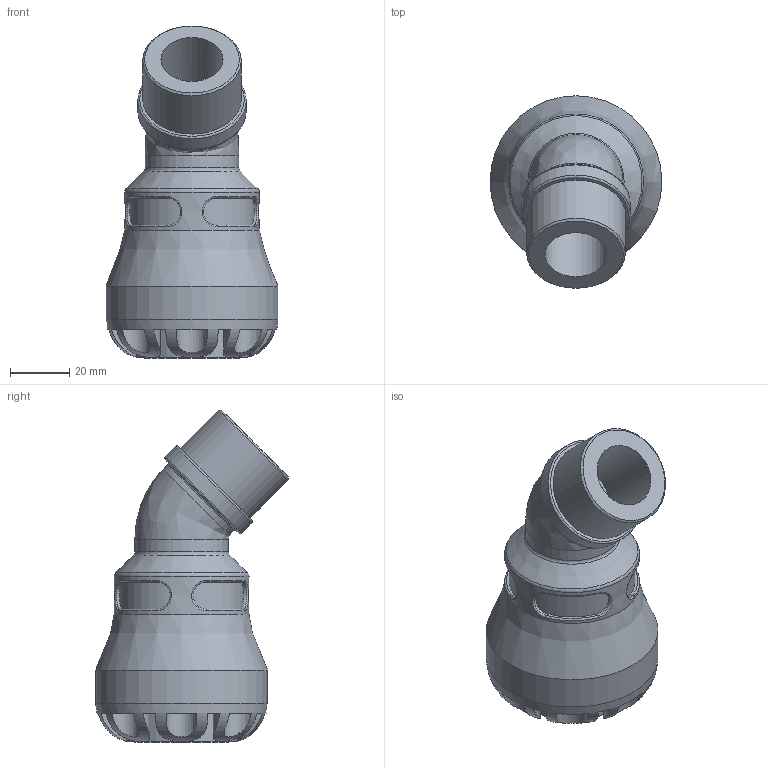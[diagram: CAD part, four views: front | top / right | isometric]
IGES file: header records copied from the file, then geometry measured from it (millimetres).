
Global section: file name: 104500032010.ipt; native system: Autodesk Inventor 2015; preprocessor: unknown; author: KIM; date: 20190127.091403; units: millimetre
Bounding box: 58 x 65.05 x 112.05 mm (x, y, z)
Volume: 96922.7 mm3; surface area: 30278.4 mm2
Topology: 1 solids, 1 shells, 114 faces, 272 edges, 168 vertices
Faces by surface type: revolution 38, cylinder 34, plane 28, bspline 12, cone 2
Full cylindrical faces by diameter (mm): 31.587 x2, 33.249 x1, 36.574 x1, 45.532 x1, 58 x1
